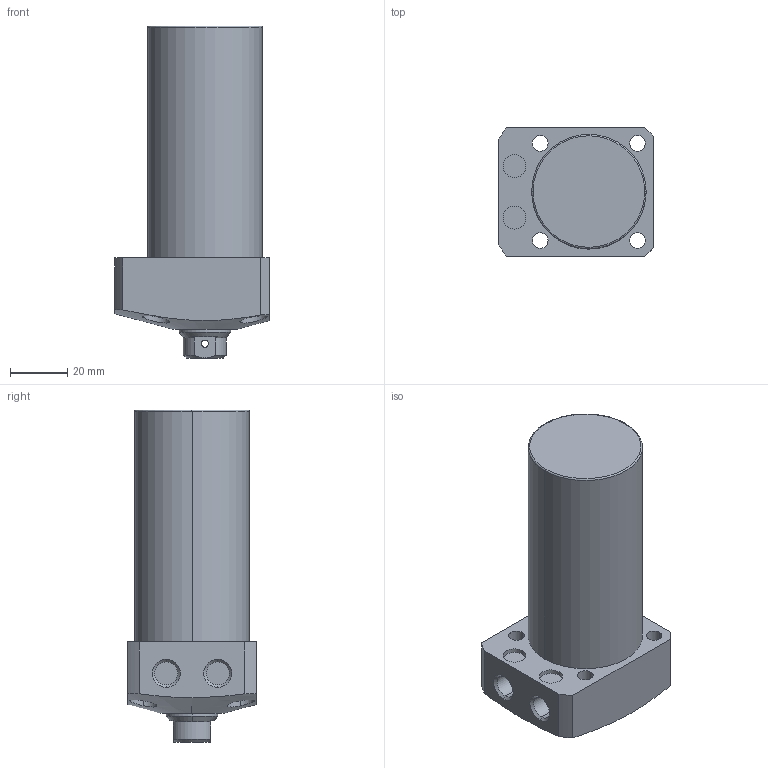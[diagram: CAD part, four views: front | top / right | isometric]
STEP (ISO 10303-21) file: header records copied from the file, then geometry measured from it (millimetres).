
FILE_DESCRIPTION (( 'STEP AP203' ), '1' );
FILE_NAME ('CLL-040CB-055.STEP', '2019-12-21T03:46:44', ( '' ), ( '' ), 'SwSTEP 2.0', 'SolidWorks 2015', '' );
FILE_SCHEMA (( 'CONFIG_CONTROL_DESIGN' ));
Length unit declared in the file: millimetre
Products named in the file (1): CLL-040CB-055
Bounding box: 54 x 45 x 116 mm (x, y, z)
Volume: 152194.9 mm3; surface area: 22311.8 mm2
Topology: 1 solids, 1 shells, 78 faces, 182 edges, 115 vertices
Faces by surface type: cylinder 39, plane 22, cone 15, torus 2
Entity records: 2721 total; most frequent: CARTESIAN_POINT 822, DIRECTION 394, ORIENTED_EDGE 360, EDGE_CURVE 180, AXIS2_PLACEMENT_3D 163, VERTEX_POINT 115, EDGE_LOOP 101, CIRCLE 84
